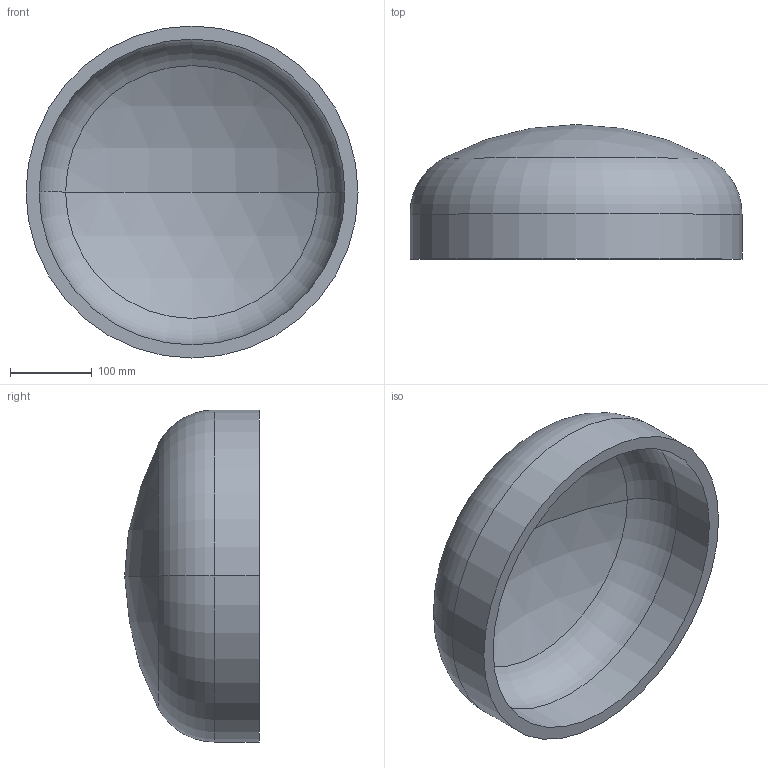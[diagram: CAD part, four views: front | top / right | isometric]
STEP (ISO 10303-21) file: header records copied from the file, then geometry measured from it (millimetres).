
FILE_DESCRIPTION (( 'STEP AP203' ), '1' );
FILE_NAME ('DIN 28013 Korbbogenform_-_Boden DIN 28013 - 406,4 x 55 - I - s=16.step', '2016-07-01T07:49:17', ( '' ), ( '' ), 'SwSTEP 2.0', 'SolidWorks 2013', '' );
FILE_SCHEMA (( 'CONFIG_CONTROL_DESIGN' ));
Length unit declared in the file: millimetre
Products named in the file (1): DIN 28013 Korbbogenform_-_Boden DIN 28013 - 406,4 x 55 - I - s=16
Bounding box: 406.4 x 164.71 x 406.4 mm (x, y, z)
Volume: 3805659.1 mm3; surface area: 495867.1 mm2
Topology: 1 solids, 1 shells, 13 faces, 24 edges, 14 vertices
Faces by surface type: torus 4, cylinder 4, sphere 4, plane 1
Entity records: 407 total; most frequent: DIRECTION 72, CARTESIAN_POINT 52, ORIENTED_EDGE 48, AXIS2_PLACEMENT_3D 34, EDGE_CURVE 24, CIRCLE 20, VERTEX_POINT 14, EDGE_LOOP 14
